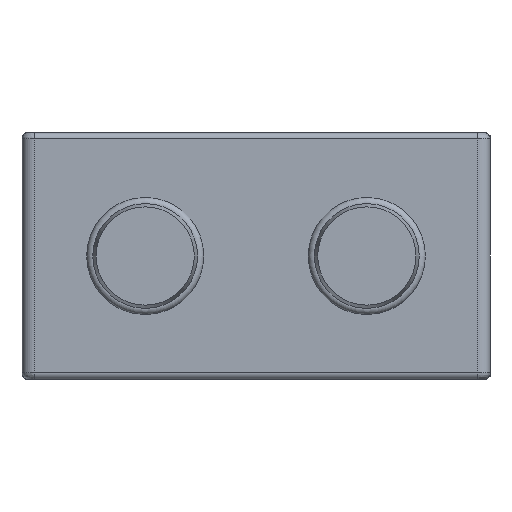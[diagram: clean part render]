
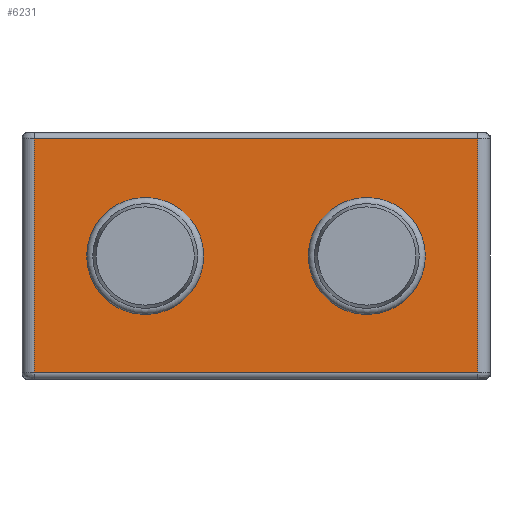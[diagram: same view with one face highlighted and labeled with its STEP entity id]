
A CAD part, left-side view. The second image highlights one B-rep face of the part: STEP entity #6231.
In plain terms, the highlighted planar face has unit normal (-1, 0, 0).
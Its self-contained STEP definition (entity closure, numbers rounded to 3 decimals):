
#636=LINE('',#9734,#1332);
#675=LINE('',#9873,#1371);
#676=LINE('',#9876,#1372);
#677=LINE('',#9877,#1373);
#1332=VECTOR('',#7966,10.);
#1371=VECTOR('',#8115,10.);
#1372=VECTOR('',#8118,10.);
#1373=VECTOR('',#8119,10.);
#1463=FACE_BOUND('',#2167,.T.);
#1464=FACE_BOUND('',#2168,.T.);
#1818=FACE_OUTER_BOUND('',#2166,.T.);
#2166=EDGE_LOOP('',(#5143,#5144,#5145,#5146));
#2167=EDGE_LOOP('',(#5147));
#2168=EDGE_LOOP('',(#5148));
#2254=CIRCLE('',#6308,4.75);
#2336=CIRCLE('',#6656,4.75);
#2376=VERTEX_POINT('',#8347);
#2844=VERTEX_POINT('',#9727);
#2846=VERTEX_POINT('',#9733);
#2882=VERTEX_POINT('',#9871);
#2883=VERTEX_POINT('',#9875);
#2884=VERTEX_POINT('',#9878);
#2934=EDGE_CURVE('',#2376,#2376,#2254,.T.);
#3607=EDGE_CURVE('',#2844,#2846,#636,.T.);
#3674=EDGE_CURVE('',#2882,#2846,#675,.T.);
#3675=EDGE_CURVE('',#2882,#2883,#676,.T.);
#3676=EDGE_CURVE('',#2883,#2844,#677,.T.);
#3677=EDGE_CURVE('',#2884,#2884,#2336,.T.);
#5143=ORIENTED_EDGE('',*,*,#3675,.F.);
#5144=ORIENTED_EDGE('',*,*,#3674,.T.);
#5145=ORIENTED_EDGE('',*,*,#3607,.F.);
#5146=ORIENTED_EDGE('',*,*,#3676,.F.);
#5147=ORIENTED_EDGE('',*,*,#2934,.T.);
#5148=ORIENTED_EDGE('',*,*,#3677,.T.);
#5613=PLANE('',#6655);
#6231=ADVANCED_FACE('',(#1818,#1463,#1464),#5613,.T.);
#6308=AXIS2_PLACEMENT_3D('',#8348,#6767,#6768);
#6655=AXIS2_PLACEMENT_3D('',#9874,#8116,#8117);
#6656=AXIS2_PLACEMENT_3D('',#9879,#8120,#8121);
#6767=DIRECTION('center_axis',(1.,0.,0.));
#6768=DIRECTION('ref_axis',(0.,1.,0.));
#7966=DIRECTION('',(0.,-1.,0.));
#8115=DIRECTION('',(0.,0.,1.));
#8116=DIRECTION('center_axis',(-1.,0.,0.));
#8117=DIRECTION('ref_axis',(0.,0.,1.));
#8118=DIRECTION('',(0.,1.,0.));
#8119=DIRECTION('',(0.,0.,1.));
#8120=DIRECTION('center_axis',(1.,0.,0.));
#8121=DIRECTION('ref_axis',(0.,1.,0.));
#8347=CARTESIAN_POINT('',(-11.5,13.75,0.));
#8348=CARTESIAN_POINT('Origin',(-11.5,9.,0.));
#9727=CARTESIAN_POINT('',(-11.5,18.,9.5));
#9733=CARTESIAN_POINT('',(-11.5,-18.,9.5));
#9734=CARTESIAN_POINT('',(-11.5,-9.,9.5));
#9871=CARTESIAN_POINT('',(-11.5,-18.,-9.5));
#9873=CARTESIAN_POINT('',(-11.5,-18.,-10.));
#9874=CARTESIAN_POINT('Origin',(-11.5,-18.,-10.));
#9875=CARTESIAN_POINT('',(-11.5,18.,-9.5));
#9876=CARTESIAN_POINT('',(-11.5,-9.,-9.5));
#9877=CARTESIAN_POINT('',(-11.5,18.,-10.));
#9878=CARTESIAN_POINT('',(-11.5,-4.25,0.));
#9879=CARTESIAN_POINT('Origin',(-11.5,-9.,0.));
